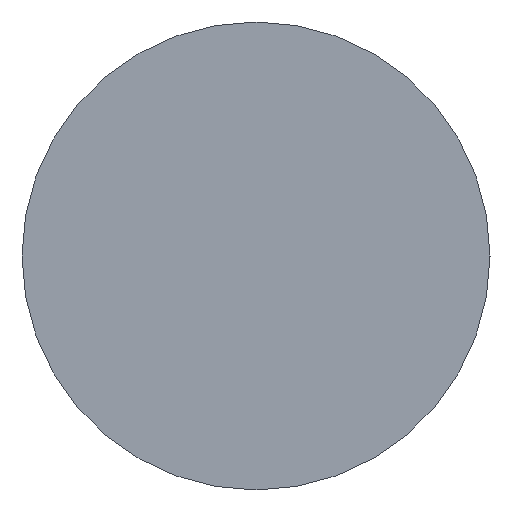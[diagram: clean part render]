
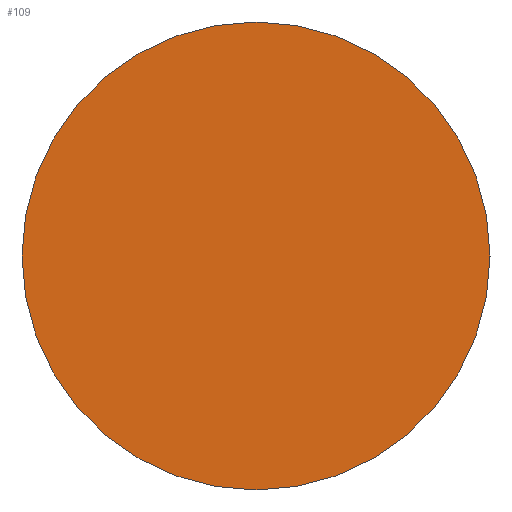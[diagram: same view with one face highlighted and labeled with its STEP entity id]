
A CAD part, left-side view. The second image highlights one B-rep face of the part: STEP entity #109.
In plain terms, the highlighted planar face has unit normal (-1, 0, 0).
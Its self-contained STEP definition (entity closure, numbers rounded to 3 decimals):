
#31 = CYLINDRICAL_SURFACE('',#32,0.6);
#32 = AXIS2_PLACEMENT_3D('',#33,#34,#35);
#33 = CARTESIAN_POINT('',(518.5,-17.554,7.271));
#34 = DIRECTION('',(1.,0.,0.));
#35 = DIRECTION('',(-0.,0.,1.));
#56 = VERTEX_POINT('',#57);
#57 = CARTESIAN_POINT('',(518.5,-17.554,7.871));
#78 = EDGE_CURVE('',#56,#56,#79,.T.);
#79 = SURFACE_CURVE('',#80,(#85,#92),.PCURVE_S1.);
#80 = CIRCLE('',#81,0.6);
#81 = AXIS2_PLACEMENT_3D('',#82,#83,#84);
#82 = CARTESIAN_POINT('',(518.5,-17.554,7.271));
#83 = DIRECTION('',(1.,0.,0.));
#84 = DIRECTION('',(-0.,0.,1.));
#85 = PCURVE('',#31,#86);
#86 = DEFINITIONAL_REPRESENTATION('',(#87),#91);
#87 = LINE('',#88,#89);
#88 = CARTESIAN_POINT('',(0.,0.));
#89 = VECTOR('',#90,1.);
#90 = DIRECTION('',(1.,0.));
#91 = ( GEOMETRIC_REPRESENTATION_CONTEXT(2) 
PARAMETRIC_REPRESENTATION_CONTEXT() REPRESENTATION_CONTEXT('2D SPACE',''
  ) );
#92 = PCURVE('',#93,#98);
#93 = PLANE('',#94);
#94 = AXIS2_PLACEMENT_3D('',#95,#96,#97);
#95 = CARTESIAN_POINT('',(518.5,-17.554,7.271));
#96 = DIRECTION('',(1.,0.,0.));
#97 = DIRECTION('',(-0.,0.,1.));
#98 = DEFINITIONAL_REPRESENTATION('',(#99),#103);
#99 = CIRCLE('',#100,0.6);
#100 = AXIS2_PLACEMENT_2D('',#101,#102);
#101 = CARTESIAN_POINT('',(0.,0.));
#102 = DIRECTION('',(1.,0.));
#103 = ( GEOMETRIC_REPRESENTATION_CONTEXT(2) 
PARAMETRIC_REPRESENTATION_CONTEXT() REPRESENTATION_CONTEXT('2D SPACE',''
  ) );
#109 = ADVANCED_FACE('',(#110),#93,.F.);
#110 = FACE_BOUND('',#111,.T.);
#111 = EDGE_LOOP('',(#112));
#112 = ORIENTED_EDGE('',*,*,#78,.F.);
